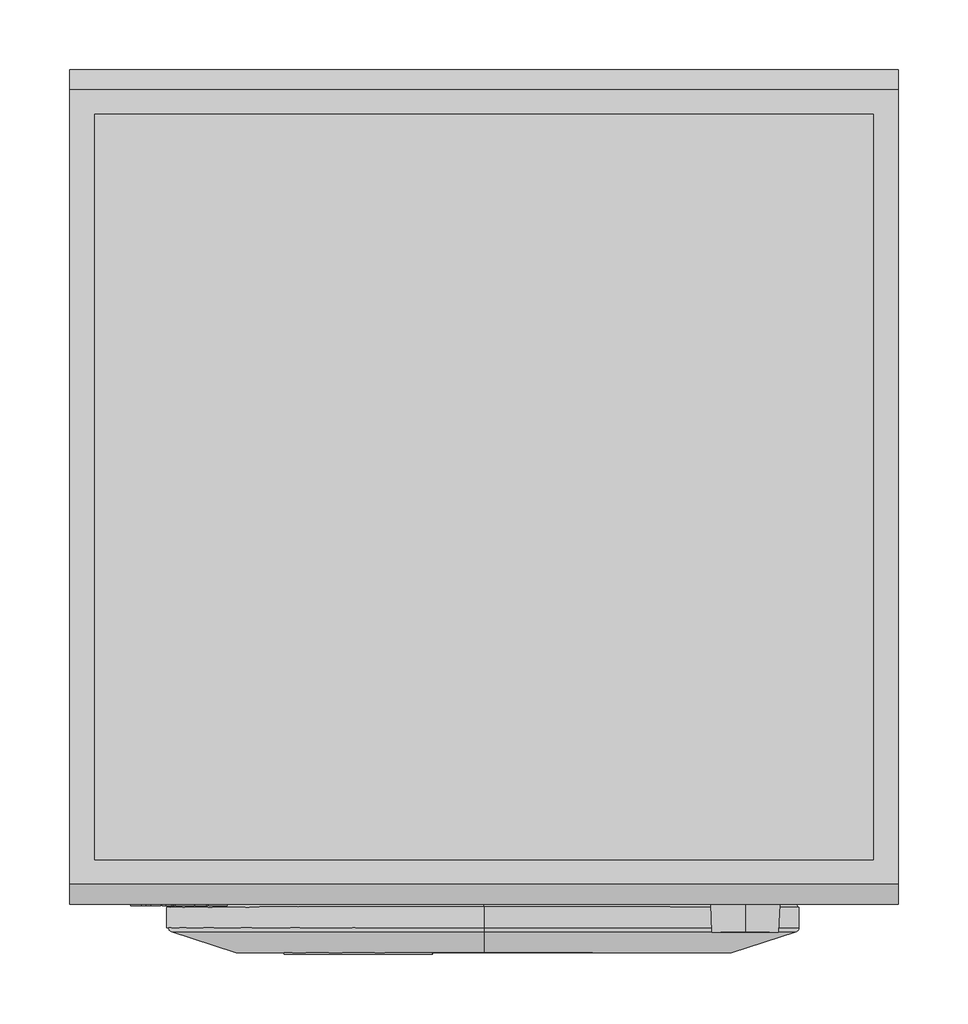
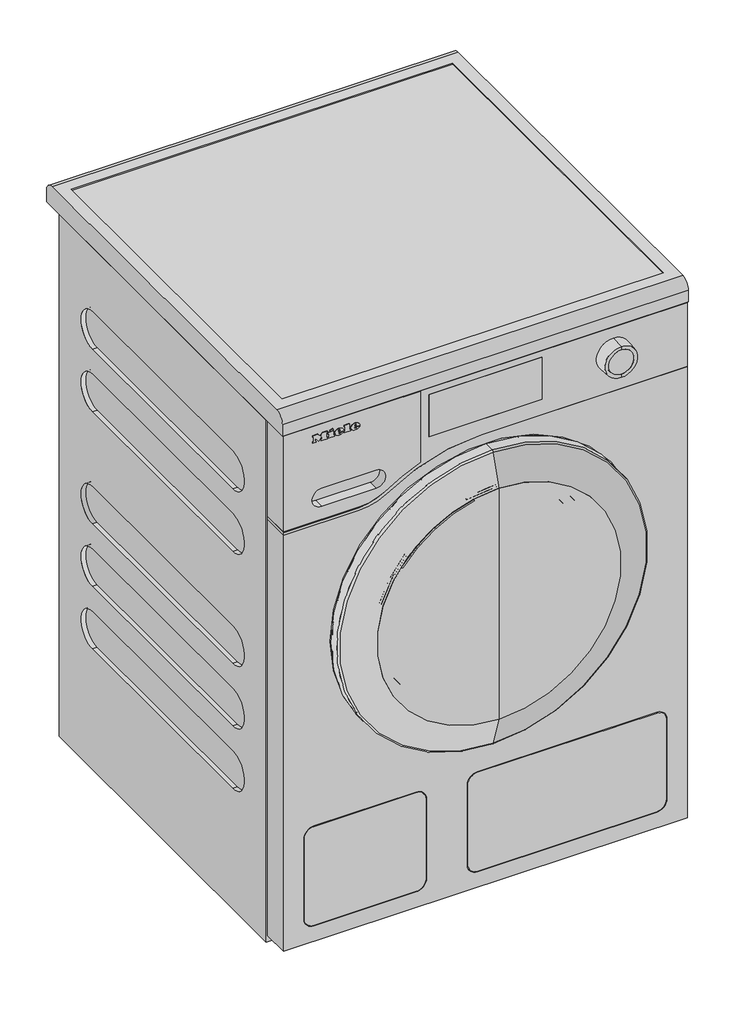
# Not in any storey: 1 proxy.
"""IFC4 building model written with IfcOpenShell, lengths in millimetres."""

from ifc_helpers import new_model, si_unit, origin, place, context, project, spatial, transform, mapped, element, save
from components import specialty_equipment_6abb5cbe, specialty_equipment_07e524df

model = new_model("IFC4")

# Units and contexts
model_context = context("Model", 3, world=origin())
ifc_project = project(units=[si_unit("LENGTHUNIT", "METRE", prefix="MILLI")], contexts=[model_context])

# Site, building
site = spatial("IfcSite", under=ifc_project)
building = spatial("IfcBuilding", under=site)

# Proxy
placement = place(None, origin())
specialty_equipment_shape = specialty_equipment_6abb5cbe(model_context)
specialty_equipment_2_shape = specialty_equipment_07e524df(model_context)
element("IfcBuildingElementProxy", 1, Name="11420860_RU_WEI865WPS_LW : 11EI8656_RU_11420860_WEI865WPS_LW", ObjectType="11420860_RU_WEI865WPS_LW : 11EI8656_RU_11420860_WEI865WPS_LW", at=placement, inside=building, context=model_context, shape_type="MappedRepresentation", body=[
    mapped(specialty_equipment_shape, transform((0.0, 0.0, 0.0), x_axis=(1.0, 0.0, 0.0), y_axis=(0.0, 1.0, 0.0), z_axis=(0.0, 0.0, 1.0))),
    mapped(specialty_equipment_2_shape, transform((0.0, 0.0, 0.0), x_axis=(1.0, 0.0, 0.0), y_axis=(0.0, 1.0, 0.0), z_axis=(0.0, 0.0, 1.0))),
])

save(model, "model.ifc")
